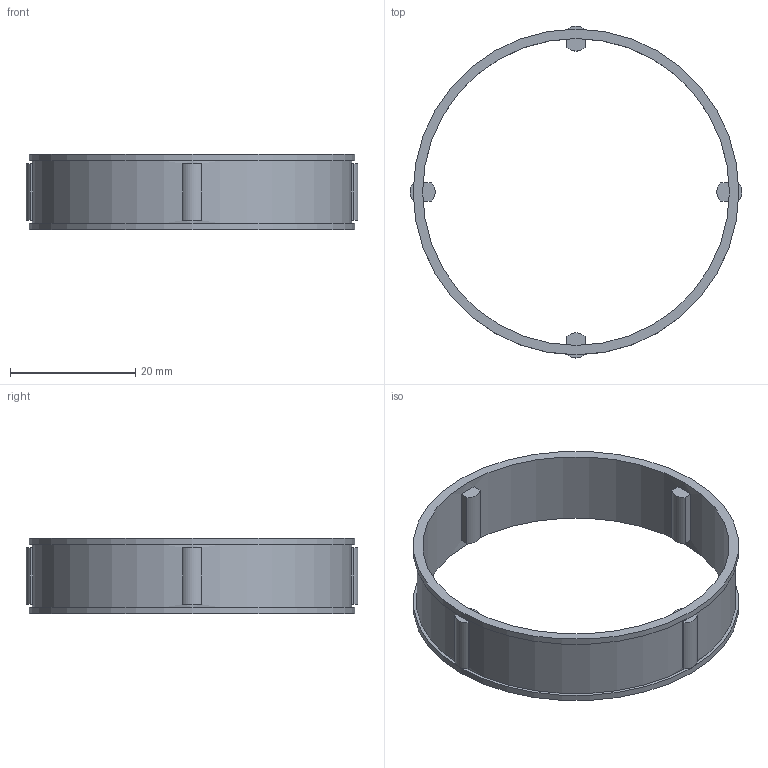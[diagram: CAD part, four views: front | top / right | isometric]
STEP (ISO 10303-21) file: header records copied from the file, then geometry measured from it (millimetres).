
FILE_DESCRIPTION(/* description */ (''),/* implementation_level */ '2;1');
FILE_NAME(/* name */ '300482 FE 453 Z.stp',/* time_stamp */ '2016-11-03T10:26:29+01:00',/* author */ (''),/* organization */ (''),/* preprocessor_version */ 'ST-DEVELOPER v15',/* originating_system */ 'SIEMENS PLM Software NX 8.5',/* authorisation */ '');
FILE_SCHEMA (('CONFIG_CONTROL_DESIGN'));
Length unit declared in the file: millimetre
Products named in the file (1): ATE0000080_01
Bounding box: 53 x 53 x 12 mm (x, y, z)
Volume: 2322.3 mm3; surface area: 4624.2 mm2
Topology: 1 solids, 1 shells, 48 faces, 114 edges, 76 vertices
Faces by surface type: plane 36, cylinder 12
Full cylindrical faces by diameter (mm): 49 x1, 51 x1, 52 x2
Entity records: 1420 total; most frequent: DIRECTION 242, CARTESIAN_POINT 225, ORIENTED_EDGE 208, EDGE_CURVE 104, AXIS2_PLACEMENT_3D 89, VERTEX_POINT 72, LINE 64, VECTOR 64
